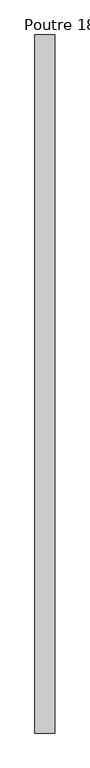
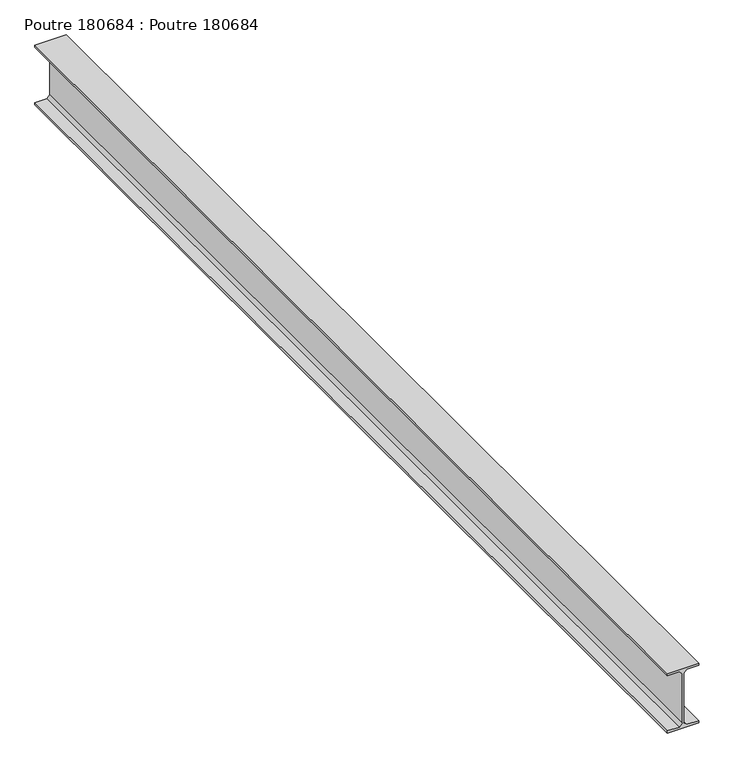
"""IFC4 building model written with IfcOpenShell, lengths in millimetres: beam geometry, Poutre 180684 : Poutre 180684."""

from ifc_helpers import new_model, si_unit, frame, origin, place, context, project, spatial, polyline, outline, extrude, source, transform, mapped, element, save


def poutre_180684_poutre_180684_0acd7753(model_context):
    return source(origin(), model_context, "Body", "SweptSolid", [
        extrude(outline(polyline([(7755.5841583, -30.0000001), (7755.5841583, -180.0000001), (7744.8841583, -180.0000001), (7744.8841583, -123.5500001), (7729.8841583, -108.5500001), (7481.2841583, -108.5500001), (7466.2841583, -123.5500001), (7466.2841583, -180.0000001), (7455.5841583, -180.0000001), (7455.5841583, -30.0000001), (7466.2841583, -30.0000001), (7466.2841583, -86.4500001), (7481.2841583, -101.4500001), (7729.8841583, -101.4500001), (7744.8841583, -86.4500001), (7744.8841583, -30.0000001), (7755.5841583, -30.0000001)])), frame((0.0, -39701.0, 0.0), z_axis=(0.0, 1.0, 0.0), x_axis=(0.0, 0.0, 1.0)), (0.0, 0.0, 1.0), 5216.0),
    ])


if __name__ == "__main__":
    model = new_model("IFC4")
    model_context = context("Model", 3, world=origin())
    ifc_project = project(units=[si_unit("LENGTHUNIT", "METRE", prefix="MILLI")], contexts=[model_context])
    site = spatial("IfcSite", under=ifc_project)
    building = spatial("IfcBuilding", under=site)
    placement = place(None, origin())
    poutre_180684_poutre_180684_shape = poutre_180684_poutre_180684_0acd7753(model_context)
    element("IfcBeam", 1, ObjectType="Poutre 180684 : Poutre 180684", at=placement, inside=building, context=model_context, shape_type="MappedRepresentation", body=[
        mapped(poutre_180684_poutre_180684_shape, transform((0.0, 0.0, 0.0), x_axis=(1.0, 0.0, 0.0), y_axis=(0.0, 1.0, 0.0), z_axis=(0.0, 0.0, 1.0))),
    ])
    save(model, "model.ifc")
